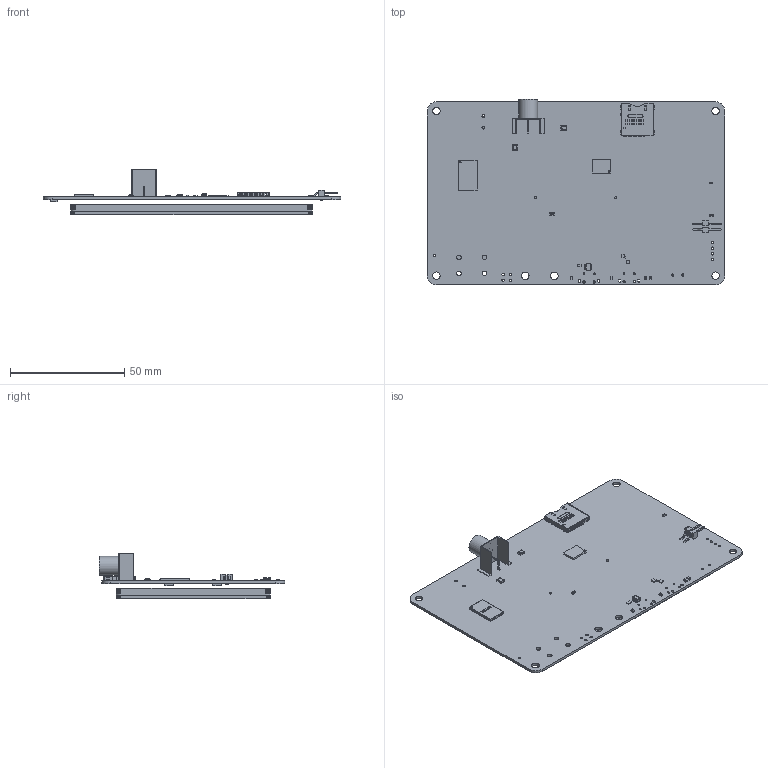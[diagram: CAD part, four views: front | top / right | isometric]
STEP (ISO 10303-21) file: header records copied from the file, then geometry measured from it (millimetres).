
FILE_DESCRIPTION(('Open CASCADE Model'),'2;1');
FILE_NAME('Open CASCADE Shape Model','2025-11-21T11:47:13',('Author'),( 'Open CASCADE'),'Open CASCADE STEP processor 7.5','Open CASCADE 7.5' ,'Unknown');
FILE_SCHEMA(('AUTOMOTIVE_DESIGN { 1 0 10303 214 1 1 1 1 }'));
Length unit declared in the file: millimetre
Products named in the file (137): PCB; Board; Open CASCADE STEP translator 7.5 2.1.1; U24; 6656657696; Body; bigPin; 6799831120; Extruded; U23; 6799832000; U22; SOT23-6; 6799831280; U3; 6799837840; 6799837600; Cylinder; JP2; TSM-102-01-F-SH-A; _TSM-102-01-SH-A_body; _T-1S6-08(-01-2-SH); CN3; PJS008-2003; User Library-KARTICA_USB-donji dio1_2; User Library-KARTICA_USB-gornji dio_2; CN1; 6799837280; 6799837120; 6799836960; 6799836800; 6799836560; 6799836320; 6799836080; 6799835840; LD2; 6799834000; 6799833840; 6799833680; 6799833520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
Assembly tree (158 placements, depth 4):
  PCB
    Board
      Open CASCADE STEP translator 7.5 2.1.1
    U24
      6656657696
        Body
        bigPin  x2
      6799831120
        Extruded
    U23
      6799832000
        Extruded
    U22
      SOT23-6
      6799831280
        Extruded
    U3
      6799837840
        Extruded
      6799837600
        Cylinder
    JP2
      TSM-102-01-F-SH-A
        _TSM-102-01-SH-A_body
        _T-1S6-08(-01-2-SH)
    CN3
      PJS008-2003
        User Library-KARTICA_USB-donji dio1_2
        User Library-KARTICA_USB-gornji dio_2
    CN1
      6799837280
        Extruded
      6799837120
        Extruded
      6799836960
        Extruded
      6799836800  x2
        Extruded
      6799836560  x2
        Extruded
      6799836320
        Extruded
      6799836080
        Cylinder
      6799835840
        Cylinder
    LD2
      6799834000
        Cylinder
      6799833840
        Extruded
      6799833680
        Extruded
      6799833520  x2
        Extruded
      6799833280  x2
        Extruded
    LD6
      6799829680
        Cylinder
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Bounding box: 130 x 81.14 x 19.84 mm (x, y, z)
Volume: 45484.2 mm3; surface area: 55407.9 mm2
Topology: 93 solids, 96 shells, 1705 faces, 4409 edges, 2928 vertices
Faces by surface type: plane 1162, cylinder 385, sphere 100, bspline 57, cone 1
Full cylindrical faces by diameter (mm): 0.2 x5, 0.3 x1, 0.4 x2, 0.5 x3, 0.65 x1, 0.7 x3, 0.8 x1, 1 x17, 1.2 x2, 1.575 x1, 1.73 x1, 2 x4, 3.25 x6, 3.7 x1, 8.3 x1
Entity records: 58846 total; most frequent: CARTESIAN_POINT 12714, ORIENTED_EDGE 7792, DIRECTION 7648, EDGE_CURVE 3897, LINE 2826, VECTOR 2826, VERTEX_POINT 2652, AXIS2_PLACEMENT_3D 2411
